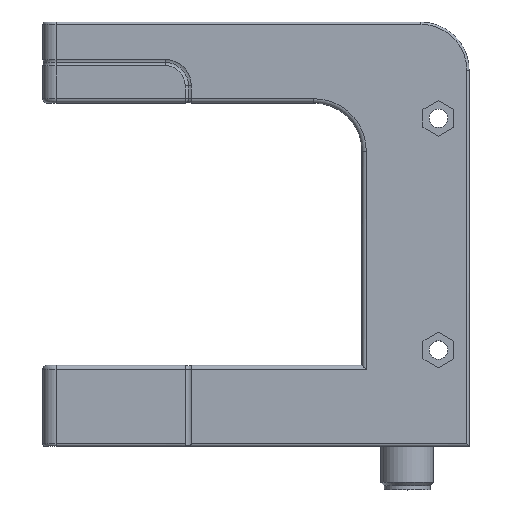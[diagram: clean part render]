
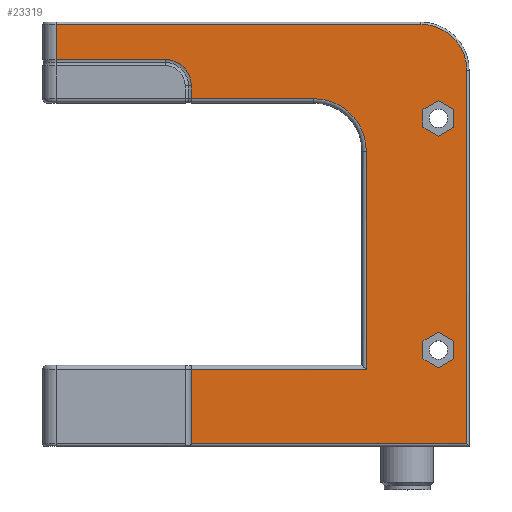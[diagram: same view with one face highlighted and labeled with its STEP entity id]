
A CAD part, top view. The second image highlights one B-rep face of the part: STEP entity #23319.
In plain terms, the highlighted planar face has unit normal (0, 0, 1).
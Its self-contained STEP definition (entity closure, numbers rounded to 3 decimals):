
#20448=CARTESIAN_POINT('',(-59.029,41.516,23.5));
#20449=VERTEX_POINT('',#20448);
#20500=CARTESIAN_POINT('',(24.471,41.516,23.5));
#20501=VERTEX_POINT('',#20500);
#20511=CARTESIAN_POINT('',(-59.029,41.516,23.5));
#20512=DIRECTION('',(1.0,0.0,0.0));
#20513=VECTOR('',#20512,83.5);
#20514=LINE('',#20511,#20513);
#20515=EDGE_CURVE('',#20449,#20501,#20514,.T.);
#20550=CARTESIAN_POINT('',(34.971,31.016,23.5));
#20551=VERTEX_POINT('',#20550);
#20561=CARTESIAN_POINT('',(24.471,31.016,23.5));
#20562=DIRECTION('',(0.0,0.0,-1.0));
#20563=DIRECTION('',(0.707,0.707,0.0));
#20564=AXIS2_PLACEMENT_3D('',#20561,#20562,#20563);
#20565=CIRCLE('',#20564,10.5);
#20566=EDGE_CURVE('',#20501,#20551,#20565,.T.);
#20576=CARTESIAN_POINT('',(34.971,-54.484,23.5));
#20577=VERTEX_POINT('',#20576);
#20587=CARTESIAN_POINT('',(34.971,31.016,23.5));
#20588=DIRECTION('',(0.0,-1.0,0.0));
#20589=VECTOR('',#20588,85.5);
#20590=LINE('',#20587,#20589);
#20591=EDGE_CURVE('',#20551,#20577,#20590,.T.);
#20614=CARTESIAN_POINT('',(-28.079,-54.484,23.5));
#20615=VERTEX_POINT('',#20614);
#20616=CARTESIAN_POINT('',(34.971,-54.484,23.5));
#20617=DIRECTION('',(-1.0,0.0,0.0));
#20618=VECTOR('',#20617,63.05);
#20619=LINE('',#20616,#20618);
#20620=EDGE_CURVE('',#20577,#20615,#20619,.T.);
#21134=CARTESIAN_POINT('',(-28.079,-37.484,23.5));
#21135=VERTEX_POINT('',#21134);
#21136=CARTESIAN_POINT('',(-28.079,-37.484,23.5));
#21137=DIRECTION('',(0.0,-1.0,0.0));
#21138=VECTOR('',#21137,17.);
#21139=LINE('',#21136,#21138);
#21140=EDGE_CURVE('',#21135,#20615,#21139,.T.);
#21307=CARTESIAN_POINT('',(-59.029,33.466,23.5));
#21308=VERTEX_POINT('',#21307);
#21373=CARTESIAN_POINT('',(-34.079,33.466,23.5));
#21374=VERTEX_POINT('',#21373);
#21382=CARTESIAN_POINT('',(-59.029,33.466,23.5));
#21383=DIRECTION('',(1.0,0.0,0.0));
#21384=VECTOR('',#21383,24.95);
#21385=LINE('',#21382,#21384);
#21386=EDGE_CURVE('',#21308,#21374,#21385,.T.);
#21424=CARTESIAN_POINT('',(-28.079,27.466,23.5));
#21425=VERTEX_POINT('',#21424);
#21433=CARTESIAN_POINT('',(-34.079,27.466,23.5));
#21434=DIRECTION('',(0.0,0.0,-1.0));
#21435=DIRECTION('',(1.0,0.0,0.0));
#21436=AXIS2_PLACEMENT_3D('',#21433,#21434,#21435);
#21437=CIRCLE('',#21436,6.);
#21438=EDGE_CURVE('',#21374,#21425,#21437,.T.);
#21490=CARTESIAN_POINT('',(-28.079,24.516,23.5));
#21491=VERTEX_POINT('',#21490);
#21499=CARTESIAN_POINT('',(-28.079,27.466,23.5));
#21500=DIRECTION('',(0.0,-1.0,0.0));
#21501=VECTOR('',#21500,2.95);
#21502=LINE('',#21499,#21501);
#21503=EDGE_CURVE('',#21425,#21491,#21502,.T.);
#21885=CARTESIAN_POINT('',(11.971,-37.484,23.5));
#21886=VERTEX_POINT('',#21885);
#21887=CARTESIAN_POINT('',(-28.079,-37.484,23.5));
#21888=DIRECTION('',(1.0,0.0,0.0));
#21889=VECTOR('',#21888,40.05);
#21890=LINE('',#21887,#21889);
#21891=EDGE_CURVE('',#21135,#21886,#21890,.T.);
#22007=CARTESIAN_POINT('',(-0.029,24.516,23.5));
#22008=VERTEX_POINT('',#22007);
#22016=CARTESIAN_POINT('',(-0.029,24.516,23.5));
#22017=DIRECTION('',(-1.0,0.0,0.0));
#22018=VECTOR('',#22017,28.05);
#22019=LINE('',#22016,#22018);
#22020=EDGE_CURVE('',#22008,#21491,#22019,.T.);
#22109=CARTESIAN_POINT('',(-59.029,33.466,23.5));
#22110=DIRECTION('',(0.0,1.0,0.0));
#22111=VECTOR('',#22110,8.05);
#22112=LINE('',#22109,#22111);
#22113=EDGE_CURVE('',#21308,#20449,#22112,.T.);
#22568=CARTESIAN_POINT('',(28.471,24.116,23.5));
#22569=VERTEX_POINT('',#22568);
#22576=CARTESIAN_POINT('',(24.921,22.066,23.5));
#22577=VERTEX_POINT('',#22576);
#22578=CARTESIAN_POINT('',(24.921,22.066,23.5));
#22579=DIRECTION('',(0.866,0.5,0.0));
#22580=VECTOR('',#22579,4.099);
#22581=LINE('',#22578,#22580);
#22582=EDGE_CURVE('',#22577,#22569,#22581,.T.);
#22607=CARTESIAN_POINT('',(24.921,17.967,23.5));
#22608=VERTEX_POINT('',#22607);
#22609=CARTESIAN_POINT('',(24.921,17.967,23.5));
#22610=DIRECTION('',(0.0,1.0,0.0));
#22611=VECTOR('',#22610,4.099);
#22612=LINE('',#22609,#22611);
#22613=EDGE_CURVE('',#22608,#22577,#22612,.T.);
#22638=CARTESIAN_POINT('',(28.471,15.917,23.5));
#22639=VERTEX_POINT('',#22638);
#22640=CARTESIAN_POINT('',(28.471,15.917,23.5));
#22641=DIRECTION('',(-0.866,0.5,0.0));
#22642=VECTOR('',#22641,4.099);
#22643=LINE('',#22640,#22642);
#22644=EDGE_CURVE('',#22639,#22608,#22643,.T.);
#22669=CARTESIAN_POINT('',(32.021,17.967,23.5));
#22670=VERTEX_POINT('',#22669);
#22671=CARTESIAN_POINT('',(32.021,17.967,23.5));
#22672=DIRECTION('',(-0.866,-0.5,0.0));
#22673=VECTOR('',#22672,4.099);
#22674=LINE('',#22671,#22673);
#22675=EDGE_CURVE('',#22670,#22639,#22674,.T.);
#22700=CARTESIAN_POINT('',(32.021,22.066,23.5));
#22701=VERTEX_POINT('',#22700);
#22702=CARTESIAN_POINT('',(32.021,22.066,23.5));
#22703=DIRECTION('',(0.0,-1.0,0.0));
#22704=VECTOR('',#22703,4.099);
#22705=LINE('',#22702,#22704);
#22706=EDGE_CURVE('',#22701,#22670,#22705,.T.);
#22729=CARTESIAN_POINT('',(28.471,24.116,23.5));
#22730=DIRECTION('',(0.866,-0.5,0.0));
#22731=VECTOR('',#22730,4.099);
#22732=LINE('',#22729,#22731);
#22733=EDGE_CURVE('',#22569,#22701,#22732,.T.);
#22779=CARTESIAN_POINT('',(28.471,-28.884,23.5));
#22780=VERTEX_POINT('',#22779);
#22787=CARTESIAN_POINT('',(24.921,-30.934,23.5));
#22788=VERTEX_POINT('',#22787);
#22789=CARTESIAN_POINT('',(24.921,-30.934,23.5));
#22790=DIRECTION('',(0.866,0.5,0.0));
#22791=VECTOR('',#22790,4.099);
#22792=LINE('',#22789,#22791);
#22793=EDGE_CURVE('',#22788,#22780,#22792,.T.);
#22818=CARTESIAN_POINT('',(24.921,-35.033,23.5));
#22819=VERTEX_POINT('',#22818);
#22820=CARTESIAN_POINT('',(24.921,-35.033,23.5));
#22821=DIRECTION('',(0.0,1.0,0.0));
#22822=VECTOR('',#22821,4.099);
#22823=LINE('',#22820,#22822);
#22824=EDGE_CURVE('',#22819,#22788,#22823,.T.);
#22849=CARTESIAN_POINT('',(28.471,-37.083,23.5));
#22850=VERTEX_POINT('',#22849);
#22851=CARTESIAN_POINT('',(28.471,-37.083,23.5));
#22852=DIRECTION('',(-0.866,0.5,0.0));
#22853=VECTOR('',#22852,4.099);
#22854=LINE('',#22851,#22853);
#22855=EDGE_CURVE('',#22850,#22819,#22854,.T.);
#22880=CARTESIAN_POINT('',(32.021,-35.033,23.5));
#22881=VERTEX_POINT('',#22880);
#22882=CARTESIAN_POINT('',(32.021,-35.033,23.5));
#22883=DIRECTION('',(-0.866,-0.5,0.0));
#22884=VECTOR('',#22883,4.099);
#22885=LINE('',#22882,#22884);
#22886=EDGE_CURVE('',#22881,#22850,#22885,.T.);
#22911=CARTESIAN_POINT('',(32.021,-30.934,23.5));
#22912=VERTEX_POINT('',#22911);
#22913=CARTESIAN_POINT('',(32.021,-30.934,23.5));
#22914=DIRECTION('',(0.0,-1.0,0.0));
#22915=VECTOR('',#22914,4.099);
#22916=LINE('',#22913,#22915);
#22917=EDGE_CURVE('',#22912,#22881,#22916,.T.);
#22940=CARTESIAN_POINT('',(28.471,-28.884,23.5));
#22941=DIRECTION('',(0.866,-0.5,0.0));
#22942=VECTOR('',#22941,4.099);
#22943=LINE('',#22940,#22942);
#22944=EDGE_CURVE('',#22780,#22912,#22943,.T.);
#23164=CARTESIAN_POINT('',(11.971,12.516,23.5));
#23165=VERTEX_POINT('',#23164);
#23173=CARTESIAN_POINT('',(-0.029,12.516,23.5));
#23174=DIRECTION('',(0.0,0.0,1.0));
#23175=DIRECTION('',(0.707,0.707,0.0));
#23176=AXIS2_PLACEMENT_3D('',#23173,#23174,#23175);
#23177=CIRCLE('',#23176,12.);
#23178=EDGE_CURVE('',#23165,#22008,#23177,.T.);
#23196=CARTESIAN_POINT('',(11.971,-37.484,23.5));
#23197=DIRECTION('',(0.0,1.0,0.0));
#23198=VECTOR('',#23197,50.);
#23199=LINE('',#23196,#23198);
#23200=EDGE_CURVE('',#21886,#23165,#23199,.T.);
#23283=CARTESIAN_POINT('',(-9.047,-7.231,23.5));
#23284=DIRECTION('',(0.0,0.0,1.0));
#23285=DIRECTION('',(1.0,0.0,0.0));
#23286=AXIS2_PLACEMENT_3D('',#23283,#23284,#23285);
#23287=PLANE('',#23286);
#23288=ORIENTED_EDGE('',*,*,#20515,.F.);
#23289=ORIENTED_EDGE('',*,*,#22113,.F.);
#23290=ORIENTED_EDGE('',*,*,#21386,.T.);
#23291=ORIENTED_EDGE('',*,*,#21438,.T.);
#23292=ORIENTED_EDGE('',*,*,#21503,.T.);
#23293=ORIENTED_EDGE('',*,*,#22020,.F.);
#23294=ORIENTED_EDGE('',*,*,#23178,.F.);
#23295=ORIENTED_EDGE('',*,*,#23200,.F.);
#23296=ORIENTED_EDGE('',*,*,#21891,.F.);
#23297=ORIENTED_EDGE('',*,*,#21140,.T.);
#23298=ORIENTED_EDGE('',*,*,#20620,.F.);
#23299=ORIENTED_EDGE('',*,*,#20591,.F.);
#23300=ORIENTED_EDGE('',*,*,#20566,.F.);
#23301=EDGE_LOOP('',(#23288,#23289,#23290,#23291,#23292,#23293,#23294,#23295,#23296,#23297,#23298,#23299,#23300));
#23302=FACE_OUTER_BOUND('',#23301,.T.);
#23303=ORIENTED_EDGE('',*,*,#22582,.T.);
#23304=ORIENTED_EDGE('',*,*,#22733,.T.);
#23305=ORIENTED_EDGE('',*,*,#22706,.T.);
#23306=ORIENTED_EDGE('',*,*,#22675,.T.);
#23307=ORIENTED_EDGE('',*,*,#22644,.T.);
#23308=ORIENTED_EDGE('',*,*,#22613,.T.);
#23309=EDGE_LOOP('',(#23303,#23304,#23305,#23306,#23307,#23308));
#23310=FACE_BOUND('',#23309,.T.);
#23311=ORIENTED_EDGE('',*,*,#22793,.T.);
#23312=ORIENTED_EDGE('',*,*,#22944,.T.);
#23313=ORIENTED_EDGE('',*,*,#22917,.T.);
#23314=ORIENTED_EDGE('',*,*,#22886,.T.);
#23315=ORIENTED_EDGE('',*,*,#22855,.T.);
#23316=ORIENTED_EDGE('',*,*,#22824,.T.);
#23317=EDGE_LOOP('',(#23311,#23312,#23313,#23314,#23315,#23316));
#23318=FACE_BOUND('',#23317,.T.);
#23319=ADVANCED_FACE('',(#23302,#23310,#23318),#23287,.T.);
